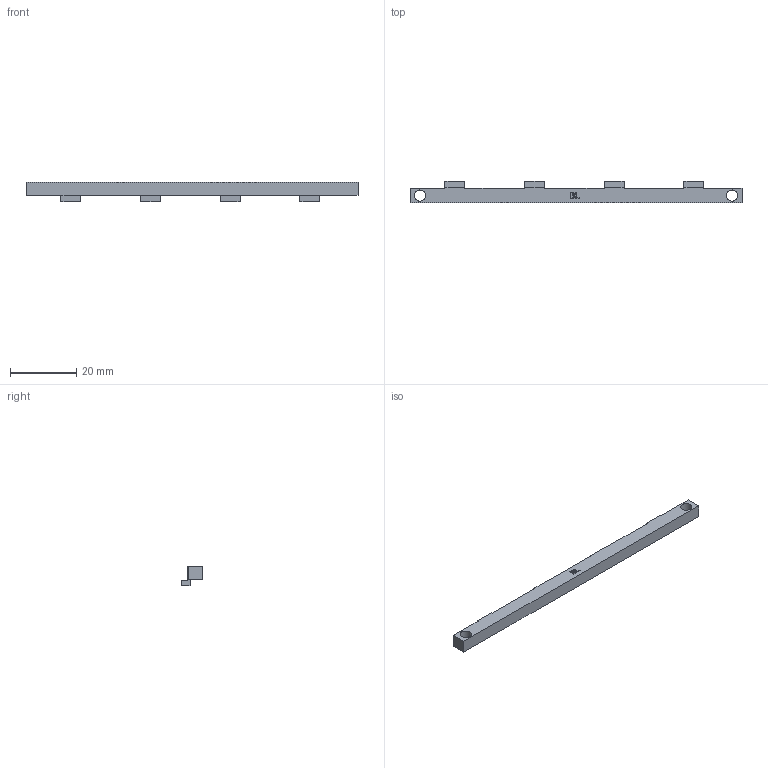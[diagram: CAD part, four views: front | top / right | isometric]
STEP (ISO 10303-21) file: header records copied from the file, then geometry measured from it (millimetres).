
FILE_DESCRIPTION(('Open CASCADE Model'),'2;1');
FILE_NAME('Open CASCADE Shape Model','2026-10-07T10:51:43',('Author'),( 'Open CASCADE'),'Open CASCADE STEP processor 7.8','Open CASCADE 7.8' ,'Unknown');
FILE_SCHEMA(('AUTOMOTIVE_DESIGN { 1 0 10303 214 1 1 1 1 }'));
Length unit declared in the file: millimetre
Products named in the file (1): Open CASCADE STEP translator 7.8 5
Bounding box: 100 x 6.6 x 5.95 mm (x, y, z)
Volume: 1815.1 mm3; surface area: 2016.2 mm2
Topology: 1 solids, 1 shells, 75 faces, 207 edges, 138 vertices
Faces by surface type: plane 57, extrusion 16, cylinder 2
Full cylindrical faces by diameter (mm): 3.4 x2
Entity records: 5282 total; most frequent: CARTESIAN_POINT 1347, DIRECTION 619, VECTOR 487, LINE 471, ORIENTED_EDGE 414, PCURVE 414, DEFINITIONAL_REPRESENTATION 414, EDGE_CURVE 207
